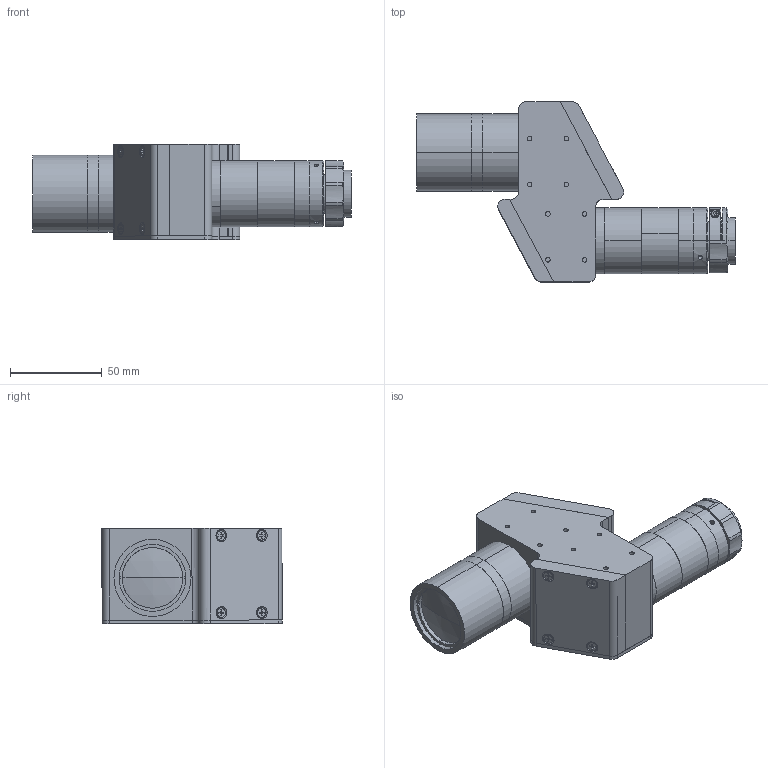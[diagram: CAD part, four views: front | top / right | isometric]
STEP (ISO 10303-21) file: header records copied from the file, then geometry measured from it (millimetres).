
FILE_DESCRIPTION (( 'STEP AP203' ), '1' );
FILE_NAME ('XF-MH05X450.STEP', '2020-08-24T07:17:14', ( 'canrill-02' ), ( '' ), 'SwSTEP 2.0', 'SolidWorks 2014', '' );
FILE_SCHEMA (( 'CONFIG_CONTROL_DESIGN' ));
Length unit declared in the file: millimetre
Products named in the file (1): XF-MH05X450
Bounding box: 173.47 x 98.08 x 52.16 mm (x, y, z)
Surface area: 47544.1 mm2 (no closed solid volume)
Topology: 0 solids, 33 shells, 420 faces, 1316 edges, 904 vertices
Faces by surface type: plane 212, cylinder 163, cone 41, sphere 2, torus 2
Entity records: 14906 total; most frequent: CARTESIAN_POINT 2960, DIRECTION 2597, ORIENTED_EDGE 2176, EDGE_CURVE 1314, VERTEX_POINT 904, AXIS2_PLACEMENT_3D 885, VECTOR 827, LINE 827
